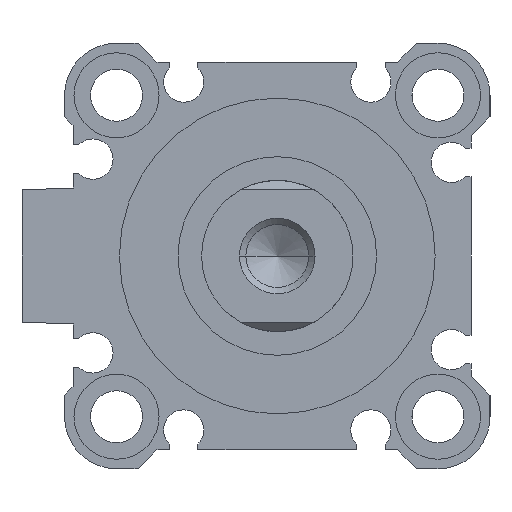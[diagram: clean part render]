
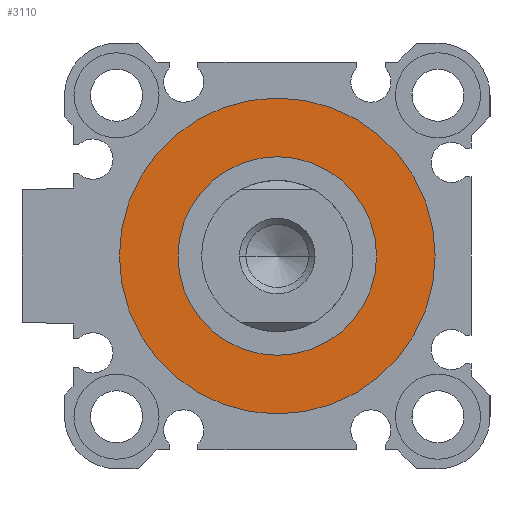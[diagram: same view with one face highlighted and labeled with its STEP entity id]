
A CAD part, left-side view. The second image highlights one B-rep face of the part: STEP entity #3110.
In plain terms, the highlighted planar face has unit normal (-1, 0, 0).
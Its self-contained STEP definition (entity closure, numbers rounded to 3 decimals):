
#76 = EDGE_CURVE ( 'NONE', #2748, #1935, #2091, .T. ) ;
#83 = CARTESIAN_POINT ( 'NONE',  ( 2.1, 0., 10.5 ) ) ;
#201 = ORIENTED_EDGE ( 'NONE', *, *, #4471, .T. ) ;
#620 = CARTESIAN_POINT ( 'NONE',  ( 2.1, 0., 0. ) ) ;
#780 = ORIENTED_EDGE ( 'NONE', *, *, #2422, .T. ) ;
#945 = DIRECTION ( 'NONE',  ( 1., 0., 0. ) ) ;
#996 = AXIS2_PLACEMENT_3D ( 'NONE', #2476, #1290, #2113 ) ;
#1007 = CARTESIAN_POINT ( 'NONE',  ( 2.1, 0., -16.7 ) ) ;
#1046 = AXIS2_PLACEMENT_3D ( 'NONE', #3424, #1467, #4533 ) ;
#1083 = CARTESIAN_POINT ( 'NONE',  ( 2.1, 0., 0. ) ) ;
#1152 = CIRCLE ( 'NONE', #996, 16.7 ) ;
#1250 = AXIS2_PLACEMENT_3D ( 'NONE', #1083, #945, #3345 ) ;
#1290 = DIRECTION ( 'NONE',  ( 1., 0., 0. ) ) ;
#1433 = DIRECTION ( 'NONE',  ( 0., 1., 0. ) ) ;
#1467 = DIRECTION ( 'NONE',  ( 1., 0., 0. ) ) ;
#1645 = EDGE_LOOP ( 'NONE', ( #780, #201 ) ) ;
#1724 = CIRCLE ( 'NONE', #1250, 10.5 ) ;
#1758 = ORIENTED_EDGE ( 'NONE', *, *, #76, .F. ) ;
#1935 = VERTEX_POINT ( 'NONE', #1007 ) ;
#2091 = CIRCLE ( 'NONE', #4041, 16.7 ) ;
#2113 = DIRECTION ( 'NONE',  ( 0., 0., -1. ) ) ;
#2155 = VERTEX_POINT ( 'NONE', #3238 ) ;
#2186 = EDGE_CURVE ( 'NONE', #1935, #2748, #1152, .T. ) ;
#2422 = EDGE_CURVE ( 'NONE', #4183, #2155, #1724, .T. ) ;
#2476 = CARTESIAN_POINT ( 'NONE',  ( 2.1, 0., 0. ) ) ;
#2551 = FACE_OUTER_BOUND ( 'NONE', #4597, .T. ) ;
#2576 = CARTESIAN_POINT ( 'NONE',  ( 2.1, 0., 16.7 ) ) ;
#2748 = VERTEX_POINT ( 'NONE', #2576 ) ;
#2777 = AXIS2_PLACEMENT_3D ( 'NONE', #620, #2927, #1433 ) ;
#2849 = CARTESIAN_POINT ( 'NONE',  ( 2.1, 0., 0. ) ) ;
#2927 = DIRECTION ( 'NONE',  ( 1., 0., 0. ) ) ;
#3110 = ADVANCED_FACE ( 'NONE', ( #2551, #4847 ), #3363, .F. ) ;
#3238 = CARTESIAN_POINT ( 'NONE',  ( 2.1, 0., -10.5 ) ) ;
#3345 = DIRECTION ( 'NONE',  ( 0., 0., -1. ) ) ;
#3363 = PLANE ( 'NONE',  #2777 ) ;
#3424 = CARTESIAN_POINT ( 'NONE',  ( 2.1, 0., 0. ) ) ;
#3641 = DIRECTION ( 'NONE',  ( 1., 0., 0. ) ) ;
#3891 = CIRCLE ( 'NONE', #1046, 10.5 ) ;
#3971 = DIRECTION ( 'NONE',  ( 0., 0., -1. ) ) ;
#4041 = AXIS2_PLACEMENT_3D ( 'NONE', #2849, #3641, #3971 ) ;
#4183 = VERTEX_POINT ( 'NONE', #83 ) ;
#4471 = EDGE_CURVE ( 'NONE', #2155, #4183, #3891, .T. ) ;
#4533 = DIRECTION ( 'NONE',  ( 0., 0., -1. ) ) ;
#4597 = EDGE_LOOP ( 'NONE', ( #1758, #4841 ) ) ;
#4841 = ORIENTED_EDGE ( 'NONE', *, *, #2186, .F. ) ;
#4847 = FACE_BOUND ( 'NONE', #1645, .T. ) ;
